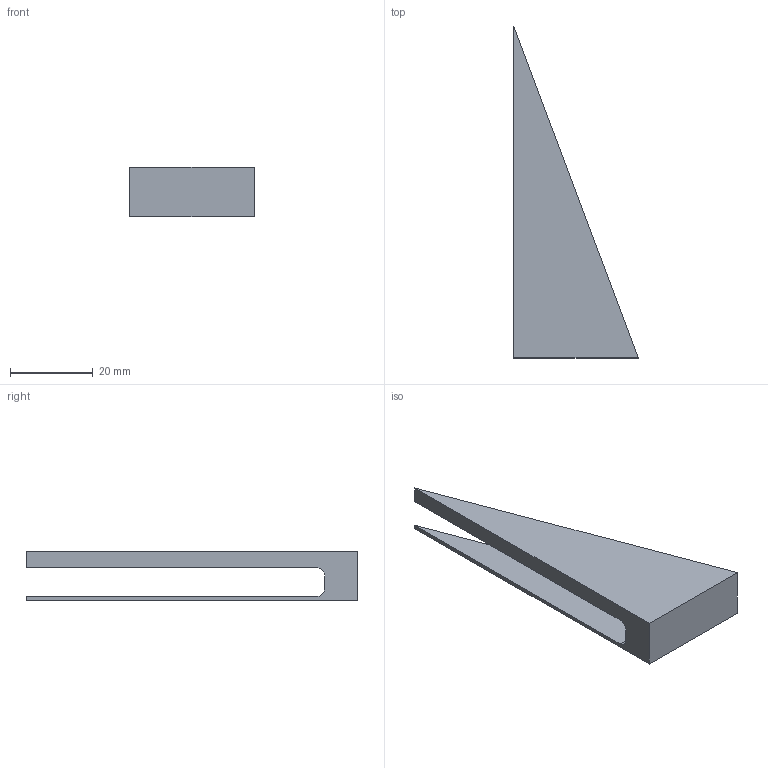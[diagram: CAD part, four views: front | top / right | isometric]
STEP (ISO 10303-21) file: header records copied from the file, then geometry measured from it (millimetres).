
FILE_DESCRIPTION(('Open CASCADE Model'),'2;1');
FILE_NAME('Open CASCADE Shape Model','2026-10-15T15:10:11',('Author'),( 'Open CASCADE'),'Open CASCADE STEP processor 8.0','Open CASCADE 8.0' ,'Unknown');
FILE_SCHEMA(('AUTOMOTIVE_DESIGN { 1 0 10303 214 1 1 1 1 }'));
Length unit declared in the file: millimetre
Products named in the file (1): U05_CARTELA_30x80x12_P05_JUNTA_44 225
Bounding box: 30 x 80 x 12 mm (x, y, z)
Volume: 7642.1 mm3; surface area: 5793 mm2
Topology: 1 solids, 1 shells, 10 faces, 24 edges, 16 vertices
Faces by surface type: plane 8, cylinder 2
Entity records: 618 total; most frequent: CARTESIAN_POINT 137, DIRECTION 82, LINE 50, VECTOR 50, ORIENTED_EDGE 48, PCURVE 48, DEFINITIONAL_REPRESENTATION 48, EDGE_CURVE 24
